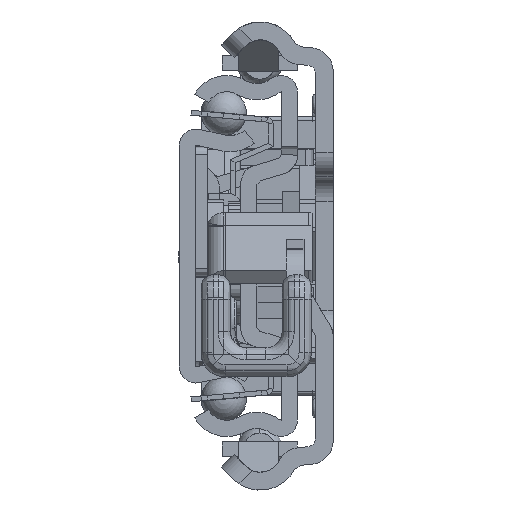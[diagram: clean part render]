
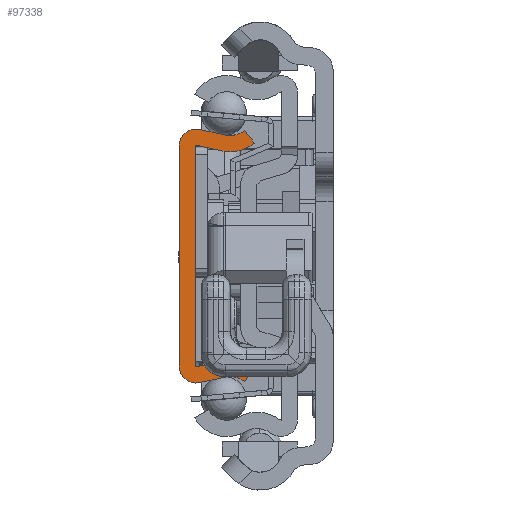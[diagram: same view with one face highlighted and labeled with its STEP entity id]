
A CAD part, left-side view. The second image highlights one B-rep face of the part: STEP entity #97338.
In plain terms, the highlighted planar face has unit normal (-1, 0, 0).
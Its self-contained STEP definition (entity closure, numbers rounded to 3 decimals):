
#90498=CARTESIAN_POINT('',(0.,-6.29,-17.65));
#90499=DIRECTION('',(-1.,0.,0.));
#90500=DIRECTION('',(0.,-0.629,0.778));
#90501=AXIS2_PLACEMENT_3D('',#90498,#90499,#90500);
#90503=DIRECTION('',(0.,0.977,-0.213));
#90504=VECTOR('',#90503,3.218);
#90505=CARTESIAN_POINT('',(0.,-5.692,-14.915));
#90506=LINE('',#90505,#90504);
#90507=CARTESIAN_POINT('',(0.,-2.1,-13.55));
#90508=DIRECTION('',(1.,0.,0.));
#90509=DIRECTION('',(0.,-0.213,-0.977));
#90510=AXIS2_PLACEMENT_3D('',#90507,#90508,#90509);
#90512=CARTESIAN_POINT('',(0.,-2.1,13.55));
#90513=DIRECTION('',(1.,0.,0.));
#90514=DIRECTION('',(0.,1.,0.));
#90515=AXIS2_PLACEMENT_3D('',#90512,#90513,#90514);
#90517=DIRECTION('',(0.,-0.977,-0.213));
#90518=VECTOR('',#90517,3.218);
#90519=CARTESIAN_POINT('',(0.,-2.548,15.602));
#90520=LINE('',#90519,#90518);
#90521=CARTESIAN_POINT('',(0.,-6.29,17.65));
#90522=DIRECTION('',(-1.,0.,0.));
#90523=DIRECTION('',(0.,0.213,-0.977));
#90524=AXIS2_PLACEMENT_3D('',#90521,#90522,#90523);
#90526=DIRECTION('',(0.,-0.629,-0.778));
#90527=VECTOR('',#90526,2.);
#90528=CARTESIAN_POINT('',(0.,-8.05,15.472));
#90529=LINE('',#90528,#90527);
#90530=CARTESIAN_POINT('',(0.,-6.29,17.65));
#90531=DIRECTION('',(1.,0.,0.));
#90532=DIRECTION('',(0.,-0.629,-0.778));
#90533=AXIS2_PLACEMENT_3D('',#90530,#90531,#90532);
#90535=DIRECTION('',(0.,0.977,0.213));
#90536=VECTOR('',#90535,3.218);
#90537=CARTESIAN_POINT('',(0.,-5.265,12.961));
#90538=LINE('',#90537,#90536);
#90539=CARTESIAN_POINT('',(0.,-2.1,13.55));
#90540=DIRECTION('',(-1.,0.,0.));
#90541=DIRECTION('',(0.,-0.213,0.977));
#90542=AXIS2_PLACEMENT_3D('',#90539,#90540,#90541);
#90544=CARTESIAN_POINT('',(0.,-2.1,-13.55));
#90545=DIRECTION('',(-1.,0.,0.));
#90546=DIRECTION('',(0.,1.,0.));
#90547=AXIS2_PLACEMENT_3D('',#90544,#90545,#90546);
#90549=DIRECTION('',(0.,-0.977,0.213));
#90550=VECTOR('',#90549,3.218);
#90551=CARTESIAN_POINT('',(0.,-2.121,-13.648));
#90552=LINE('',#90551,#90550);
#90553=CARTESIAN_POINT('',(0.,-6.29,-17.65));
#90554=DIRECTION('',(1.,0.,0.));
#90555=DIRECTION('',(0.,0.213,0.977));
#90556=AXIS2_PLACEMENT_3D('',#90553,#90554,#90555);
#90558=DIRECTION('',(0.,0.629,-0.778));
#90559=VECTOR('',#90558,2.);
#90560=CARTESIAN_POINT('',(0.,-9.307,-13.917));
#90561=LINE('',#90560,#90559);
#90803=DIRECTION('',(0.,0.,1.));
#90804=VECTOR('',#90803,27.1);
#90805=CARTESIAN_POINT('',(0.,-2.,-13.55));
#90806=LINE('',#90805,#90804);
#92111=DIRECTION('',(0.,0.,-1.));
#92112=VECTOR('',#92111,27.1);
#92113=CARTESIAN_POINT('',(0.,0.,13.55));
#92114=LINE('',#92113,#92112);
#95988=CARTESIAN_POINT('',(0.,-8.05,-15.472));
#95989=CARTESIAN_POINT('',(0.,-5.692,-14.915));
#95990=VERTEX_POINT('',#95988);
#95991=VERTEX_POINT('',#95989);
#95992=CARTESIAN_POINT('',(0.,-2.548,-15.602));
#95993=VERTEX_POINT('',#95992);
#95994=CARTESIAN_POINT('',(0.,0.,-13.55));
#95995=VERTEX_POINT('',#95994);
#95996=CARTESIAN_POINT('',(0.,0.,13.55));
#95997=VERTEX_POINT('',#95996);
#95998=CARTESIAN_POINT('',(0.,-2.548,15.602));
#95999=VERTEX_POINT('',#95998);
#96000=CARTESIAN_POINT('',(0.,-5.692,14.915));
#96001=VERTEX_POINT('',#96000);
#96002=CARTESIAN_POINT('',(0.,-8.05,15.472));
#96003=VERTEX_POINT('',#96002);
#96004=CARTESIAN_POINT('',(0.,-9.307,13.917));
#96005=VERTEX_POINT('',#96004);
#96006=CARTESIAN_POINT('',(0.,-5.265,12.961));
#96007=VERTEX_POINT('',#96006);
#96008=CARTESIAN_POINT('',(0.,-2.121,13.648));
#96009=VERTEX_POINT('',#96008);
#96010=CARTESIAN_POINT('',(0.,-2.,13.55));
#96011=VERTEX_POINT('',#96010);
#96012=CARTESIAN_POINT('',(0.,-2.,-13.55));
#96013=VERTEX_POINT('',#96012);
#96014=CARTESIAN_POINT('',(0.,-2.121,-13.648));
#96015=VERTEX_POINT('',#96014);
#96016=CARTESIAN_POINT('',(0.,-5.265,-12.961));
#96017=VERTEX_POINT('',#96016);
#96018=CARTESIAN_POINT('',(0.,-9.307,-13.917));
#96019=VERTEX_POINT('',#96018);
#97299=CARTESIAN_POINT('',(0.,0.,0.));
#97300=DIRECTION('',(1.,0.,0.));
#97301=DIRECTION('',(0.,-1.,0.));
#97302=AXIS2_PLACEMENT_3D('',#97299,#97300,#97301);
#97303=PLANE('',#97302);
#97305=ORIENTED_EDGE('',*,*,#97304,.T.);
#97307=ORIENTED_EDGE('',*,*,#97306,.T.);
#97309=ORIENTED_EDGE('',*,*,#97308,.T.);
#97311=ORIENTED_EDGE('',*,*,#97310,.F.);
#97313=ORIENTED_EDGE('',*,*,#97312,.T.);
#97315=ORIENTED_EDGE('',*,*,#97314,.T.);
#97317=ORIENTED_EDGE('',*,*,#97316,.T.);
#97319=ORIENTED_EDGE('',*,*,#97318,.T.);
#97321=ORIENTED_EDGE('',*,*,#97320,.T.);
#97323=ORIENTED_EDGE('',*,*,#97322,.T.);
#97325=ORIENTED_EDGE('',*,*,#97324,.T.);
#97327=ORIENTED_EDGE('',*,*,#97326,.F.);
#97329=ORIENTED_EDGE('',*,*,#97328,.T.);
#97331=ORIENTED_EDGE('',*,*,#97330,.T.);
#97333=ORIENTED_EDGE('',*,*,#97332,.T.);
#97335=ORIENTED_EDGE('',*,*,#97334,.T.);
#97336=EDGE_LOOP('',(#97305,#97307,#97309,#97311,#97313,#97315,#97317,#97319,
#97321,#97323,#97325,#97327,#97329,#97331,#97333,#97335));
#97337=FACE_OUTER_BOUND('',#97336,.F.);
#90502=CIRCLE('',#90501,2.8);
#90511=CIRCLE('',#90510,2.1);
#90516=CIRCLE('',#90515,2.1);
#90525=CIRCLE('',#90524,2.8);
#90534=CIRCLE('',#90533,4.8);
#90543=CIRCLE('',#90542,0.1);
#90548=CIRCLE('',#90547,0.1);
#90557=CIRCLE('',#90556,4.8);
#97304=EDGE_CURVE('',#95990,#95991,#90502,.T.);
#97306=EDGE_CURVE('',#95991,#95993,#90506,.T.);
#97308=EDGE_CURVE('',#95993,#95995,#90511,.T.);
#97310=EDGE_CURVE('',#95997,#95995,#92114,.T.);
#97312=EDGE_CURVE('',#95997,#95999,#90516,.T.);
#97314=EDGE_CURVE('',#95999,#96001,#90520,.T.);
#97316=EDGE_CURVE('',#96001,#96003,#90525,.T.);
#97318=EDGE_CURVE('',#96003,#96005,#90529,.T.);
#97320=EDGE_CURVE('',#96005,#96007,#90534,.T.);
#97322=EDGE_CURVE('',#96007,#96009,#90538,.T.);
#97324=EDGE_CURVE('',#96009,#96011,#90543,.T.);
#97326=EDGE_CURVE('',#96013,#96011,#90806,.T.);
#97328=EDGE_CURVE('',#96013,#96015,#90548,.T.);
#97330=EDGE_CURVE('',#96015,#96017,#90552,.T.);
#97332=EDGE_CURVE('',#96017,#96019,#90557,.T.);
#97334=EDGE_CURVE('',#96019,#95990,#90561,.T.);
#97338=ADVANCED_FACE('',(#97337),#97303,.F.);
